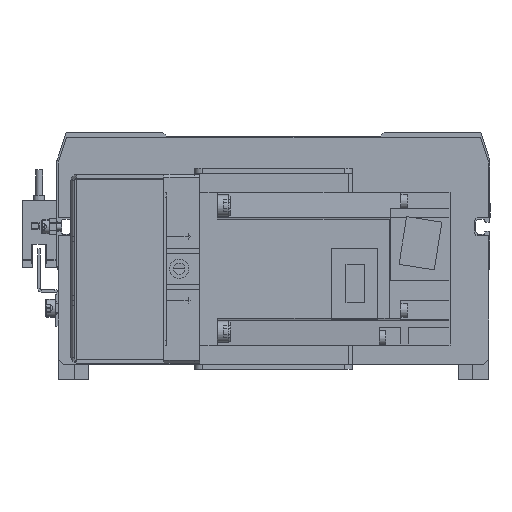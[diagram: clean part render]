
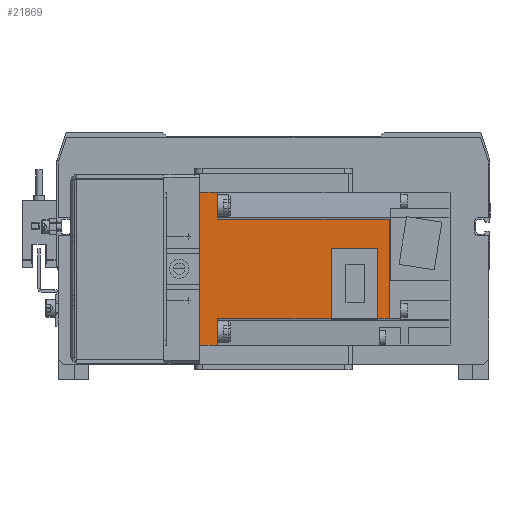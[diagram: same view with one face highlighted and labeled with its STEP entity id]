
A CAD part, front view. The second image highlights one B-rep face of the part: STEP entity #21869.
In plain terms, the highlighted planar face has unit normal (0, -1, 0) as drawn and (1, 0, 0) by its records, which use the part's own axes.
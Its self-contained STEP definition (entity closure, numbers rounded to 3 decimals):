
#480 = CARTESIAN_POINT ( 'NONE',  ( 30., 0., -30. ) ) ;
#1791 = DIRECTION ( 'NONE',  ( 0., -1., 0. ) ) ;
#2047 = CARTESIAN_POINT ( 'NONE',  ( 30., 74.5, -19.515 ) ) ;
#2491 = CARTESIAN_POINT ( 'NONE',  ( 30., 69.85, 8. ) ) ;
#2494 = PLANE ( 'NONE',  #3911 ) ;
#2543 = VERTEX_POINT ( 'NONE', #40955 ) ;
#3379 = LINE ( 'NONE', #24060, #29552 ) ;
#3818 = LINE ( 'NONE', #35288, #23804 ) ;
#3911 = AXIS2_PLACEMENT_3D ( 'NONE', #5773, #28719, #28848 ) ;
#4653 = VECTOR ( 'NONE', #12760, 1000. ) ;
#5517 = CARTESIAN_POINT ( 'NONE',  ( 30., 7., 19.515 ) ) ;
#5773 = CARTESIAN_POINT ( 'NONE',  ( 30., 74.5, 30. ) ) ;
#5819 = VERTEX_POINT ( 'NONE', #17501 ) ;
#6119 = VERTEX_POINT ( 'NONE', #2491 ) ;
#6617 = ORIENTED_EDGE ( 'NONE', *, *, #15494, .T. ) ;
#8650 = CARTESIAN_POINT ( 'NONE',  ( 30., 69.85, -19.515 ) ) ;
#8764 = ORIENTED_EDGE ( 'NONE', *, *, #10530, .F. ) ;
#9343 = CARTESIAN_POINT ( 'NONE',  ( 30., 7., 30. ) ) ;
#9367 = DIRECTION ( 'NONE',  ( 0., 1., 0. ) ) ;
#9574 = CARTESIAN_POINT ( 'NONE',  ( 30., 74.5, -19.515 ) ) ;
#9937 = DIRECTION ( 'NONE',  ( 0., 0., 1. ) ) ;
#10530 = EDGE_CURVE ( 'NONE', #5819, #11157, #18453, .T. ) ;
#11114 = VECTOR ( 'NONE', #9937, 1000. ) ;
#11157 = VERTEX_POINT ( 'NONE', #19438 ) ;
#11679 = ORIENTED_EDGE ( 'NONE', *, *, #29626, .F. ) ;
#11744 = CARTESIAN_POINT ( 'NONE',  ( 30., 51.7, 30. ) ) ;
#11751 = LINE ( 'NONE', #9343, #26133 ) ;
#12760 = DIRECTION ( 'NONE',  ( 0., -1., 0. ) ) ;
#13084 = EDGE_CURVE ( 'NONE', #16943, #5819, #23863, .T. ) ;
#13634 = EDGE_CURVE ( 'NONE', #26709, #19042, #18710, .T. ) ;
#13693 = ORIENTED_EDGE ( 'NONE', *, *, #28426, .F. ) ;
#15421 = VERTEX_POINT ( 'NONE', #8650 ) ;
#15494 = EDGE_CURVE ( 'NONE', #40609, #39229, #25328, .T. ) ;
#16233 = CARTESIAN_POINT ( 'NONE',  ( 30., 74.5, 19.515 ) ) ;
#16792 = VECTOR ( 'NONE', #9367, 1000. ) ;
#16943 = VERTEX_POINT ( 'NONE', #34263 ) ;
#17037 = VECTOR ( 'NONE', #31617, 1000. ) ;
#17501 = CARTESIAN_POINT ( 'NONE',  ( 30., 51.7, -19.515 ) ) ;
#18453 = LINE ( 'NONE', #2047, #4653 ) ;
#18710 = LINE ( 'NONE', #40706, #26427 ) ;
#19042 = VERTEX_POINT ( 'NONE', #5517 ) ;
#19438 = CARTESIAN_POINT ( 'NONE',  ( 30., 7., -19.515 ) ) ;
#19783 = EDGE_LOOP ( 'NONE', ( #26651, #27089, #11679, #31202, #36510, #29144, #6617, #39920, #8764, #34377, #19970, #13693 ) ) ;
#19833 = LINE ( 'NONE', #26301, #11114 ) ;
#19970 = ORIENTED_EDGE ( 'NONE', *, *, #33170, .F. ) ;
#20125 = CARTESIAN_POINT ( 'NONE',  ( 30., 74.5, 19.515 ) ) ;
#20417 = VERTEX_POINT ( 'NONE', #16233 ) ;
#20451 = VECTOR ( 'NONE', #22022, 1000. ) ;
#20836 = CARTESIAN_POINT ( 'NONE',  ( 30., 7., -30. ) ) ;
#21316 = CARTESIAN_POINT ( 'NONE',  ( 30., 74.5, 30. ) ) ;
#21770 = LINE ( 'NONE', #20125, #22299 ) ;
#21869 = ADVANCED_FACE ( 'NONE', ( #41251 ), #2494, .F. ) ;
#22022 = DIRECTION ( 'NONE',  ( 0., 0., -1. ) ) ;
#22074 = LINE ( 'NONE', #31645, #29266 ) ;
#22299 = VECTOR ( 'NONE', #23720, 1000. ) ;
#23720 = DIRECTION ( 'NONE',  ( 0., 1., 0. ) ) ;
#23804 = VECTOR ( 'NONE', #41432, 1000. ) ;
#23863 = LINE ( 'NONE', #11744, #38821 ) ;
#24029 = LINE ( 'NONE', #29004, #16792 ) ;
#24060 = CARTESIAN_POINT ( 'NONE',  ( 30., 74.5, -19.515 ) ) ;
#24900 = DIRECTION ( 'NONE',  ( 0., 0., -1. ) ) ;
#25328 = LINE ( 'NONE', #28136, #17037 ) ;
#26133 = VECTOR ( 'NONE', #32317, 1000. ) ;
#26301 = CARTESIAN_POINT ( 'NONE',  ( 30., 69.85, 30. ) ) ;
#26427 = VECTOR ( 'NONE', #24900, 1000. ) ;
#26651 = ORIENTED_EDGE ( 'NONE', *, *, #39789, .F. ) ;
#26709 = VERTEX_POINT ( 'NONE', #39562 ) ;
#27089 = ORIENTED_EDGE ( 'NONE', *, *, #41928, .F. ) ;
#27620 = EDGE_CURVE ( 'NONE', #2543, #40609, #3818, .T. ) ;
#28136 = CARTESIAN_POINT ( 'NONE',  ( 30., 74.5, -30. ) ) ;
#28426 = EDGE_CURVE ( 'NONE', #15421, #6119, #19833, .T. ) ;
#28719 = DIRECTION ( 'NONE',  ( -1., 0., 0. ) ) ;
#28848 = DIRECTION ( 'NONE',  ( 0., 0., 1. ) ) ;
#29004 = CARTESIAN_POINT ( 'NONE',  ( 30., 74.5, 30. ) ) ;
#29144 = ORIENTED_EDGE ( 'NONE', *, *, #27620, .T. ) ;
#29224 = LINE ( 'NONE', #21316, #20451 ) ;
#29266 = VECTOR ( 'NONE', #1791, 1000. ) ;
#29552 = VECTOR ( 'NONE', #38450, 1000. ) ;
#29626 = EDGE_CURVE ( 'NONE', #19042, #20417, #21770, .T. ) ;
#31202 = ORIENTED_EDGE ( 'NONE', *, *, #13634, .F. ) ;
#31617 = DIRECTION ( 'NONE',  ( 0., 1., 0. ) ) ;
#31645 = CARTESIAN_POINT ( 'NONE',  ( 30., 74.5, 8. ) ) ;
#32317 = DIRECTION ( 'NONE',  ( 0., 0., -1. ) ) ;
#33170 = EDGE_CURVE ( 'NONE', #6119, #16943, #22074, .T. ) ;
#33891 = EDGE_CURVE ( 'NONE', #11157, #39229, #11751, .T. ) ;
#34263 = CARTESIAN_POINT ( 'NONE',  ( 30., 51.7, 8. ) ) ;
#34377 = ORIENTED_EDGE ( 'NONE', *, *, #13084, .F. ) ;
#35288 = CARTESIAN_POINT ( 'NONE',  ( 30., 0., 0. ) ) ;
#36510 = ORIENTED_EDGE ( 'NONE', *, *, #42557, .F. ) ;
#38450 = DIRECTION ( 'NONE',  ( 0., -1., 0. ) ) ;
#38821 = VECTOR ( 'NONE', #40898, 1000. ) ;
#39229 = VERTEX_POINT ( 'NONE', #20836 ) ;
#39562 = CARTESIAN_POINT ( 'NONE',  ( 30., 7., 30. ) ) ;
#39789 = EDGE_CURVE ( 'NONE', #39959, #15421, #3379, .T. ) ;
#39920 = ORIENTED_EDGE ( 'NONE', *, *, #33891, .F. ) ;
#39959 = VERTEX_POINT ( 'NONE', #9574 ) ;
#40609 = VERTEX_POINT ( 'NONE', #480 ) ;
#40706 = CARTESIAN_POINT ( 'NONE',  ( 30., 7., 30. ) ) ;
#40898 = DIRECTION ( 'NONE',  ( 0., 0., -1. ) ) ;
#40955 = CARTESIAN_POINT ( 'NONE',  ( 30., 0., 30. ) ) ;
#41251 = FACE_OUTER_BOUND ( 'NONE', #19783, .T. ) ;
#41432 = DIRECTION ( 'NONE',  ( 0., 0., -1. ) ) ;
#41928 = EDGE_CURVE ( 'NONE', #20417, #39959, #29224, .T. ) ;
#42557 = EDGE_CURVE ( 'NONE', #2543, #26709, #24029, .T. ) ;
